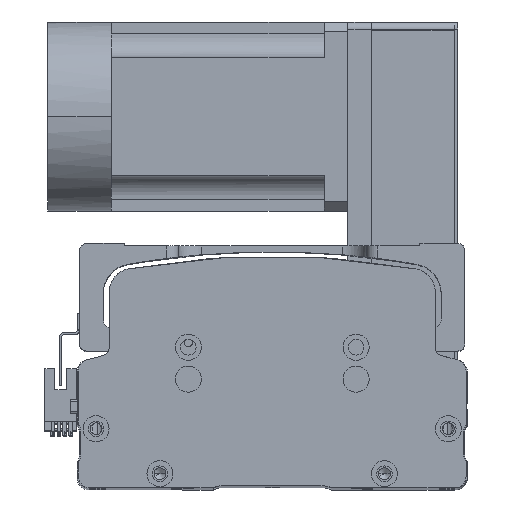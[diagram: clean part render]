
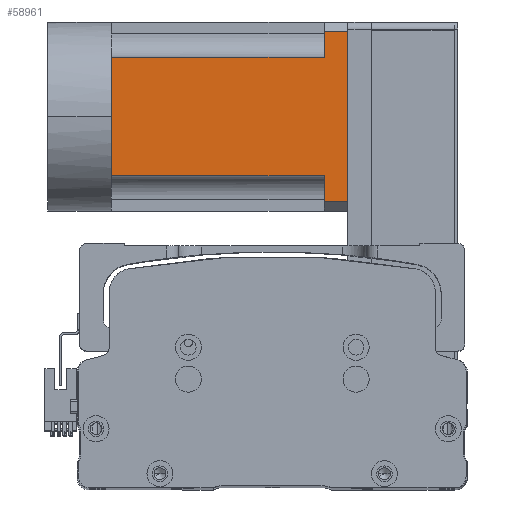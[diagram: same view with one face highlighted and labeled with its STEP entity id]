
A CAD part, top view. The second image highlights one B-rep face of the part: STEP entity #58961.
In plain terms, the highlighted planar face has unit normal (0, 0, 1) as drawn and (0, 0, -1) by its records, which use the part's own axes.
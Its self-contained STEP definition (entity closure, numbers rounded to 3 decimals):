
#774 = LINE ( 'NONE', #50170, #39429 ) ;
#921 = VERTEX_POINT ( 'NONE', #50501 ) ;
#1232 = ORIENTED_EDGE ( 'NONE', *, *, #57881, .F. ) ;
#1650 = DIRECTION ( 'NONE',  ( -1., 0., 0. ) ) ;
#2543 = DIRECTION ( 'NONE',  ( 0., -1., 0. ) ) ;
#2604 = DIRECTION ( 'NONE',  ( -1., 0., 0. ) ) ;
#6360 = CARTESIAN_POINT ( 'NONE',  ( -40., 0., -40. ) ) ;
#8393 = EDGE_CURVE ( 'NONE', #37465, #921, #55686, .T. ) ;
#10736 = CARTESIAN_POINT ( 'NONE',  ( -25., 0., -40. ) ) ;
#11636 = ORIENTED_EDGE ( 'NONE', *, *, #41293, .T. ) ;
#12142 = VERTEX_POINT ( 'NONE', #48337 ) ;
#12241 = LINE ( 'NONE', #52698, #47927 ) ;
#12801 = PLANE ( 'NONE',  #19020 ) ;
#14411 = DIRECTION ( 'NONE',  ( 0., 1., 0. ) ) ;
#15677 = CARTESIAN_POINT ( 'NONE',  ( 25., 0., -40. ) ) ;
#16768 = CARTESIAN_POINT ( 'NONE',  ( -40., 0., -40. ) ) ;
#16883 = VERTEX_POINT ( 'NONE', #47892 ) ;
#17266 = ORIENTED_EDGE ( 'NONE', *, *, #20336, .T. ) ;
#17620 = DIRECTION ( 'NONE',  ( -1., 0., 0. ) ) ;
#18027 = LINE ( 'NONE', #29301, #53723 ) ;
#19020 = AXIS2_PLACEMENT_3D ( 'NONE', #45310, #22164, #54716 ) ;
#20336 = EDGE_CURVE ( 'NONE', #921, #54115, #32658, .T. ) ;
#20525 = VERTEX_POINT ( 'NONE', #27438 ) ;
#20993 = CARTESIAN_POINT ( 'NONE',  ( -40., 90., -40. ) ) ;
#22164 = DIRECTION ( 'NONE',  ( 0., 0., -1. ) ) ;
#22394 = EDGE_CURVE ( 'NONE', #54115, #31191, #12241, .T. ) ;
#22943 = LINE ( 'NONE', #20993, #57184 ) ;
#25690 = CARTESIAN_POINT ( 'NONE',  ( -40., 90., -40. ) ) ;
#25882 = DIRECTION ( 'NONE',  ( -1., 0., 0. ) ) ;
#27438 = CARTESIAN_POINT ( 'NONE',  ( -36., 100., -40. ) ) ;
#27493 = ORIENTED_EDGE ( 'NONE', *, *, #41633, .T. ) ;
#29301 = CARTESIAN_POINT ( 'NONE',  ( -25., -27., -40. ) ) ;
#29429 = VECTOR ( 'NONE', #2543, 1000. ) ;
#29837 = FACE_OUTER_BOUND ( 'NONE', #33276, .T. ) ;
#31191 = VERTEX_POINT ( 'NONE', #15677 ) ;
#32658 = LINE ( 'NONE', #25690, #43585 ) ;
#33276 = EDGE_LOOP ( 'NONE', ( #1232, #44189, #17266, #50506, #38355, #11636, #60076, #27493, #34260 ) ) ;
#33403 = EDGE_CURVE ( 'NONE', #31191, #34495, #58981, .T. ) ;
#34140 = VECTOR ( 'NONE', #1650, 1000. ) ;
#34260 = ORIENTED_EDGE ( 'NONE', *, *, #52763, .T. ) ;
#34495 = VERTEX_POINT ( 'NONE', #57809 ) ;
#35173 = CARTESIAN_POINT ( 'NONE',  ( 36., -27., -40. ) ) ;
#37465 = VERTEX_POINT ( 'NONE', #49938 ) ;
#38355 = ORIENTED_EDGE ( 'NONE', *, *, #33403, .T. ) ;
#39429 = VECTOR ( 'NONE', #17620, 1000. ) ;
#40047 = CARTESIAN_POINT ( 'NONE',  ( 25., 90., -40. ) ) ;
#41293 = EDGE_CURVE ( 'NONE', #34495, #55089, #58724, .T. ) ;
#41633 = EDGE_CURVE ( 'NONE', #12142, #16883, #22943, .T. ) ;
#42262 = CARTESIAN_POINT ( 'NONE',  ( -36., -27., -40. ) ) ;
#43585 = VECTOR ( 'NONE', #2604, 1000. ) ;
#44189 = ORIENTED_EDGE ( 'NONE', *, *, #8393, .T. ) ;
#44391 = DIRECTION ( 'NONE',  ( -1., 0., 0. ) ) ;
#44794 = VECTOR ( 'NONE', #44391, 1000. ) ;
#45310 = CARTESIAN_POINT ( 'NONE',  ( -40., -27., -40. ) ) ;
#47848 = DIRECTION ( 'NONE',  ( 0., 1., 0. ) ) ;
#47860 = VECTOR ( 'NONE', #14411, 1000. ) ;
#47892 = CARTESIAN_POINT ( 'NONE',  ( -36., 90., -40. ) ) ;
#47927 = VECTOR ( 'NONE', #48257, 1000. ) ;
#48257 = DIRECTION ( 'NONE',  ( 0., -1., 0. ) ) ;
#48337 = CARTESIAN_POINT ( 'NONE',  ( -25., 90., -40. ) ) ;
#49938 = CARTESIAN_POINT ( 'NONE',  ( 36., 100., -40. ) ) ;
#50112 = EDGE_CURVE ( 'NONE', #55089, #12142, #18027, .T. ) ;
#50170 = CARTESIAN_POINT ( 'NONE',  ( -40., 100., -40. ) ) ;
#50501 = CARTESIAN_POINT ( 'NONE',  ( 36., 90., -40. ) ) ;
#50506 = ORIENTED_EDGE ( 'NONE', *, *, #22394, .T. ) ;
#52698 = CARTESIAN_POINT ( 'NONE',  ( 25., -27., -40. ) ) ;
#52763 = EDGE_CURVE ( 'NONE', #16883, #20525, #60252, .T. ) ;
#53723 = VECTOR ( 'NONE', #47848, 1000. ) ;
#54115 = VERTEX_POINT ( 'NONE', #40047 ) ;
#54716 = DIRECTION ( 'NONE',  ( -1., 0., 0. ) ) ;
#55089 = VERTEX_POINT ( 'NONE', #10736 ) ;
#55686 = LINE ( 'NONE', #35173, #29429 ) ;
#57184 = VECTOR ( 'NONE', #25882, 1000. ) ;
#57809 = CARTESIAN_POINT ( 'NONE',  ( 0., 0., -40. ) ) ;
#57881 = EDGE_CURVE ( 'NONE', #37465, #20525, #774, .T. ) ;
#58724 = LINE ( 'NONE', #16768, #44794 ) ;
#58961 = ADVANCED_FACE ( 'NONE', ( #29837 ), #12801, .T. ) ;
#58981 = LINE ( 'NONE', #6360, #34140 ) ;
#60076 = ORIENTED_EDGE ( 'NONE', *, *, #50112, .T. ) ;
#60252 = LINE ( 'NONE', #42262, #47860 ) ;
